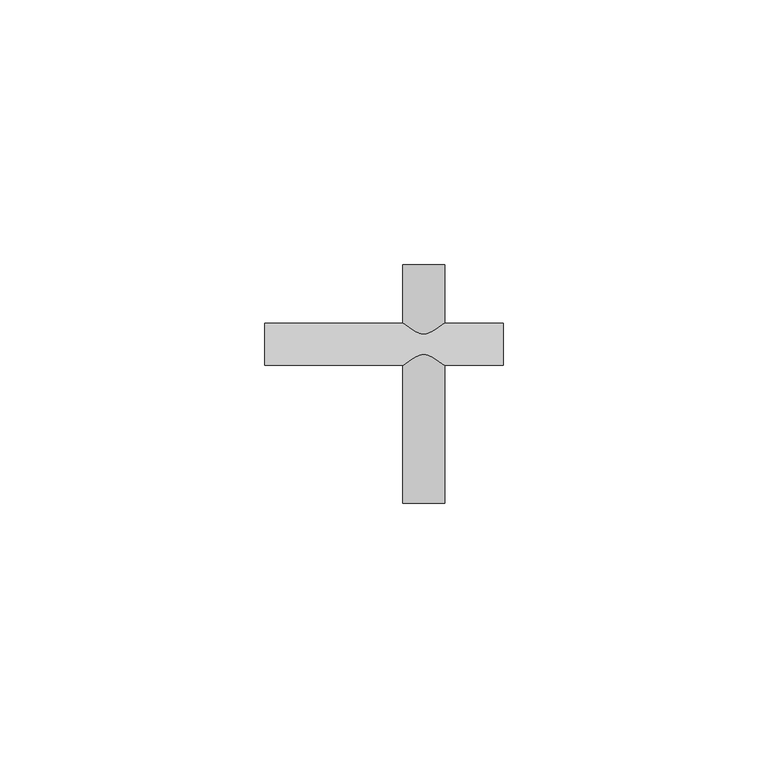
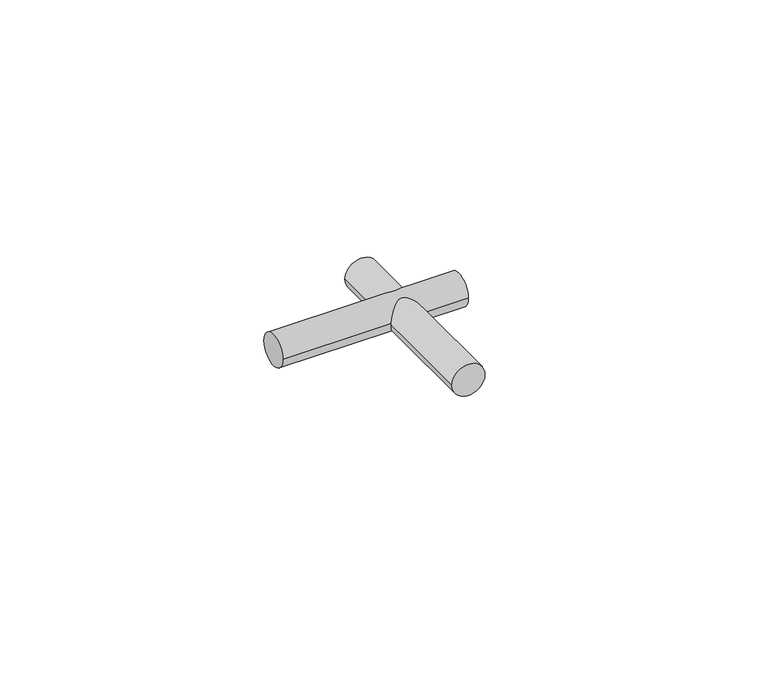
"""IFC4 building model written with IfcOpenShell, lengths in millimetres: duct fitting geometry, КНС_Крестовина_Пруток_Неспецифицируемое_DKC : NG3103CU_Медь."""

import ifcopenshell
import ifcopenshell.guid

model = None  # the IFC model being written
_history = None  # IfcOwnerHistory: only IFC2X3 demands one
_inside = {}  # id of a spatial element -> (the spatial element, [elements in it])
_under = {}  # id of a project, library or spatial element -> (it, [spatial elements below it])
_declared = {}  # id of a project -> (the project, [libraries it declares])
_typed = {}  # id of a type object -> (the type object, [elements of that type])
_made_of = {}  # id of a material, layer set ... -> (it, [elements and type objects made of it])


def new_model(schema):
    """Start an empty IFC model of exactly this schema.

    Asked for "IFC4X3", IfcOpenShell would pick the latest addendum, in which some entities
    have other attributes; the version numbers below select the first issue.
    IFC2X3 requires an IfcOwnerHistory on every rooted entity: one is made here for all.
    """
    global model, _history
    if schema == "IFC4X3":
        model = ifcopenshell.file(schema_version=(4, 3, 0, 0))
    else:
        model = ifcopenshell.file(schema=schema)
    _inside.clear()
    _under.clear()
    _declared.clear()
    _typed.clear()
    _made_of.clear()
    _history = None
    if model.schema == "IFC2X3":
        org = make("IfcOrganization", Name="unknown")
        user = make(
            "IfcPersonAndOrganization",
            ThePerson=make("IfcPerson", FamilyName="unknown"),
            TheOrganization=org,
        )
        app = make(
            "IfcApplication",
            ApplicationDeveloper=org,
            Version="unknown",
            ApplicationFullName="unknown",
            ApplicationIdentifier="unknown",
        )
        _history = make(
            "IfcOwnerHistory",
            OwningUser=user,
            OwningApplication=app,
            ChangeAction="ADDED",
            CreationDate=0,
        )
    return model


def make(cls, **values):
    """One entity of the class cls with the attributes given. An attribute that is None is left unset."""
    return model.create_entity(
        cls, **{name: value for name, value in values.items() if value is not None}
    )


def rooted(cls, **values):
    """An entity with a GlobalId (a new one), such as an element, a storey or a relation."""
    return make(cls, GlobalId=ifcopenshell.guid.new(), OwnerHistory=_history, **values)


def si_unit(unit_type, name, prefix=None):
    """IfcSIUnit, for example si_unit("LENGTHUNIT", "METRE", prefix="MILLI")."""
    return make("IfcSIUnit", UnitType=unit_type, Prefix=prefix, Name=name)


def assignment(units):
    """IfcUnitAssignment: the units of a project."""
    return None if units is None else make("IfcUnitAssignment", Units=units)


def point(xyz):
    """IfcCartesianPoint."""
    return None if xyz is None else make("IfcCartesianPoint", Coordinates=xyz)


def direction(xyz):
    """IfcDirection."""
    return None if xyz is None else make("IfcDirection", DirectionRatios=xyz)


def frame(location, z_axis=None, x_axis=None):
    """IfcAxis2Placement3D, a coordinate frame: its origin and axes. An axis left out is left unset."""
    return make(
        "IfcAxis2Placement3D",
        Location=point(location),
        Axis=direction(z_axis),
        RefDirection=direction(x_axis),
    )


def frame_2d(location, x_axis=None):
    """IfcAxis2Placement2D, a coordinate frame in the plane: its origin and x axis."""
    return make(
        "IfcAxis2Placement2D", Location=point(location), RefDirection=direction(x_axis)
    )


def origin():
    """The frame at (0, 0, 0) with its axes left unset."""
    return frame((0.0, 0.0, 0.0))


def origin_2d():
    """The frame at (0, 0) in the plane with its x axis left unset."""
    return frame_2d((0.0, 0.0))


def place(relative_to, where):
    """IfcLocalPlacement: puts the frame where relative to a parent placement (None: the world)."""
    return make(
        "IfcLocalPlacement", PlacementRelTo=relative_to, RelativePlacement=where
    )


def context(
    kind, dimensions, precision=None, world=None, true_north=None, identifier=None
):
    """IfcGeometricRepresentationContext, for example the 3D "Model" context."""
    return make(
        "IfcGeometricRepresentationContext",
        ContextIdentifier=identifier,
        ContextType=kind,
        CoordinateSpaceDimension=dimensions,
        Precision=precision,
        WorldCoordinateSystem=world,
        TrueNorth=true_north,
    )


def project(units=None, contexts=None):
    """IfcProject with its units and contexts."""
    return rooted(
        "IfcProject",
        Name="project",
        RepresentationContexts=contexts,
        UnitsInContext=assignment(units),
    )


def spatial(cls, under=None, at=None, **own):
    """A site, building, storey or space (cls), placed at a placement, below another one or the project."""
    s = rooted(cls, ObjectPlacement=at, **own)
    if under is not None:
        _under.setdefault(under.id(), (under, []))[1].append(s)
    return s


def circle_curve(where, radius):
    """IfcCircle in the frame where."""
    return make("IfcCircle", Position=where, Radius=radius)


def trimmed(basis, trim1, trim2, sense, master):
    """IfcTrimmedCurve: the piece of a basis curve between two trims."""
    return make(
        "IfcTrimmedCurve",
        BasisCurve=basis,
        Trim1=trim1,
        Trim2=trim2,
        SenseAgreement=sense,
        MasterRepresentation=master,
    )


def segment(curve, same_sense, transition):
    """IfcCompositeCurveSegment."""
    return make(
        "IfcCompositeCurveSegment",
        Transition=transition,
        SameSense=same_sense,
        ParentCurve=curve,
    )


def composite_curve(segments, self_intersect=None):
    """IfcCompositeCurve: segments joined end to end."""
    return make("IfcCompositeCurve", Segments=segments, SelfIntersect=self_intersect)


def outline(outer, holes=None, kind="AREA"):
    """IfcArbitraryClosedProfileDef: a profile drawn as a closed curve; with holes, ...WithVoids."""
    if holes is None:
        return make("IfcArbitraryClosedProfileDef", ProfileType=kind, OuterCurve=outer)
    return make(
        "IfcArbitraryProfileDefWithVoids",
        ProfileType=kind,
        OuterCurve=outer,
        InnerCurves=holes,
    )


def extrude(swept, where, along, depth):
    """IfcExtrudedAreaSolid: the profile swept, set in the frame where, extruded along a direction by depth."""
    return make(
        "IfcExtrudedAreaSolid",
        SweptArea=swept,
        Position=where,
        ExtrudedDirection=direction(along),
        Depth=depth,
    )


def shape(context_of_items, identifier, shape_type, items):
    """IfcShapeRepresentation: the items that make up one representation, for example the "Body"."""
    return make(
        "IfcShapeRepresentation",
        ContextOfItems=context_of_items,
        RepresentationIdentifier=identifier,
        RepresentationType=shape_type,
        Items=items,
    )


def source(mapping_origin, context_of_items, identifier, shape_type, items):
    """IfcRepresentationMap: a shape defined once, which mapped items show again and again."""
    return make(
        "IfcRepresentationMap",
        MappingOrigin=mapping_origin,
        MappedRepresentation=shape(context_of_items, identifier, shape_type, items),
    )


def transform(
    local_origin,
    x_axis=None,
    y_axis=None,
    z_axis=None,
    scale=None,
    scale2=None,
    scale3=None,
    uniform=True,
):
    """IfcCartesianTransformationOperator3D, or its non-uniform kind. x_axis, y_axis, z_axis: its Axis1, 2, 3."""
    if uniform:
        return make(
            "IfcCartesianTransformationOperator3D",
            Axis1=direction(x_axis),
            Axis2=direction(y_axis),
            LocalOrigin=point(local_origin),
            Scale=scale,
            Axis3=direction(z_axis),
        )
    return make(
        "IfcCartesianTransformationOperator3DnonUniform",
        Axis1=direction(x_axis),
        Axis2=direction(y_axis),
        LocalOrigin=point(local_origin),
        Scale=scale,
        Axis3=direction(z_axis),
        Scale2=scale2,
        Scale3=scale3,
    )


def mapped(mapping_source, mapping_target):
    """IfcMappedItem: shows the shape of a source again, moved by a transform."""
    return make(
        "IfcMappedItem", MappingSource=mapping_source, MappingTarget=mapping_target
    )


def made_of(thing, what):
    """Note that an element or type object is made of a material, layer set ...; save() writes the relation."""
    if what is not None:
        _made_of.setdefault(what.id(), (what, []))[1].append(thing)
    return thing


def element(
    cls,
    number,
    at=None,
    inside=None,
    cuts=None,
    type_object=None,
    material=None,
    context=None,
    identifier="Body",
    shape_type=None,
    held_by="IfcProductDefinitionShape",
    body=None,
    shapes=None,
    **own,
):
    """One element of the class cls, such as IfcWall. Its Tag is "e" and its number.

    at: its placement. inside: the storey or other place that contains it. cuts: it is an
    opening in that element (IfcRelVoidsElement). A single representation is given by context,
    identifier, shape_type and body (its items); several are given by shapes. held_by: the class
    of the entity that holds the representations. save() writes the other relations.
    """
    e = rooted(cls, Tag="e%d" % number, ObjectPlacement=at, **own)
    if body is not None:
        shapes = [shape(context, identifier, shape_type, body)]
    if shapes is not None:
        e.Representation = make(held_by, Representations=shapes)
    if inside is not None:
        _inside.setdefault(inside.id(), (inside, []))[1].append(e)
    if cuts is not None:
        rooted(
            "IfcRelVoidsElement", RelatingBuildingElement=cuts, RelatedOpeningElement=e
        )
    if type_object is not None:
        _typed.setdefault(type_object.id(), (type_object, []))[1].append(e)
    return made_of(e, material)


def aggregate(whole, parts):
    """IfcRelAggregates: a whole, such as a stair, and the parts it consists of."""
    return rooted("IfcRelAggregates", RelatingObject=whole, RelatedObjects=parts)


def save(model, path):
    """Write the relations noted so far, then the file.

    IfcRelAggregates (storeys below a building ...), IfcRelContainedInSpatialStructure (elements
    in a storey), IfcRelDefinesByType, IfcRelAssociatesMaterial and IfcRelDeclares: one each for
    every whole, place, type object, material and project.
    """
    for whole, parts in _under.values():
        aggregate(whole, parts)
    for where, things in _inside.values():
        rooted(
            "IfcRelContainedInSpatialStructure",
            RelatedElements=things,
            RelatingStructure=where,
        )
    for kind, things in _typed.values():
        rooted("IfcRelDefinesByType", RelatedObjects=things, RelatingType=kind)
    for what, things in _made_of.values():
        rooted("IfcRelAssociatesMaterial", RelatedObjects=things, RelatingMaterial=what)
    for by, libraries in _declared.values():
        rooted("IfcRelDeclares", RelatingContext=by, RelatedDefinitions=libraries)
    model.write(path)


def duct_fitting_97711104(model_context):
    return source(origin(), model_context, "Body", "SweptSolid", [
        extrude(outline(composite_curve([segment(trimmed(circle_curve(origin_2d(), 4.0), [point((-4.0, 0.0))], [point((4.0, 0.0))], False, "CARTESIAN"), True, "CONTINUOUS"), segment(trimmed(circle_curve(origin_2d(), 4.0), [point((4.0, 0.0))], [point((-4.0, 0.0))], False, "CARTESIAN"), True, "CONTINUOUS")], self_intersect=False)), frame((-30.0, 0.0, 0.0), z_axis=(1.0, 0.0, 0.0), x_axis=(0.0, 1.0, 0.0)), (0.0, 0.0, 1.0), 45.0),
        extrude(outline(composite_curve([segment(trimmed(circle_curve(origin_2d(), 4.0), [point((0.0, -4.0))], [point((0.0, 4.0))], False, "CARTESIAN"), True, "CONTINUOUS"), segment(trimmed(circle_curve(origin_2d(), 4.0), [point((0.0, 4.0))], [point((0.0, -4.0))], False, "CARTESIAN"), True, "CONTINUOUS")], self_intersect=False)), frame((0.0, -30.0, 0.0), z_axis=(0.0, 1.0, 0.0), x_axis=(0.0, 0.0, 1.0)), (0.0, 0.0, 1.0), 45.0),
    ])


if __name__ == "__main__":
    model = new_model("IFC4")
    model_context = context("Model", 3, world=origin())
    ifc_project = project(units=[si_unit("LENGTHUNIT", "METRE", prefix="MILLI")], contexts=[model_context])
    site = spatial("IfcSite", under=ifc_project)
    building = spatial("IfcBuilding", under=site)
    placement = place(None, origin())
    duct_fitting_shape = duct_fitting_97711104(model_context)
    element("IfcDuctFitting", 1, ObjectType="КНС_Крестовина_Пруток_Неспецифицируемое_DKC : NG3103CU_Медь", at=placement, inside=building, context=model_context, shape_type="MappedRepresentation", body=[
        mapped(duct_fitting_shape, transform((0.0, 0.0, 0.0), x_axis=(1.0, 0.0, 0.0), y_axis=(0.0, 1.0, 0.0), z_axis=(0.0, 0.0, 1.0))),
    ])
    save(model, "model.ifc")
